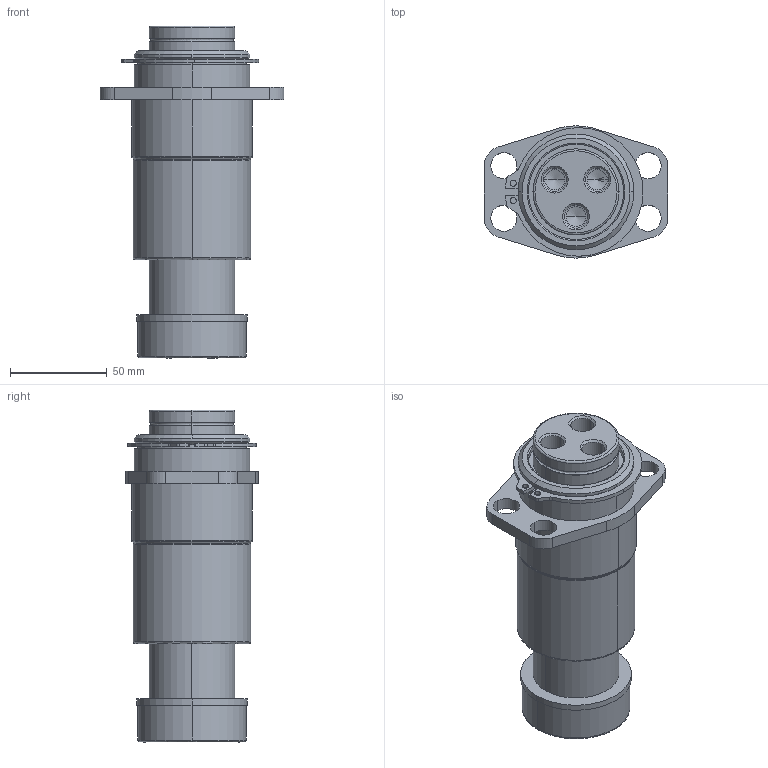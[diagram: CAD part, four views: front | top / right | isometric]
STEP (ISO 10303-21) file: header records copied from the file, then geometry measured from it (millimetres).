
FILE_DESCRIPTION (( 'STEP AP214' ), '1' );
FILE_NAME ('GK180-N4-1-TB-M-XXX.STEP', '2020-09-22T11:56:07', ( '' ), ( '' ), 'SwSTEP 2.0', 'SolidWorks 2017', '' );
FILE_SCHEMA (( 'AUTOMOTIVE_DESIGN' ));
Length unit declared in the file: inch
Products named in the file (7): RetainingRing; GK1.75-N4-1-TB-Base; GK180-M-XXX-GuidePin; GK180-N4-1-TB-M-XXX; GK180-DampeningWasher
Assembly tree (6 placements, depth 3):
  GK180-N4-1-TB-M-XXX
    GK1.75-N4-1-TB-Base
      GK1.75-N4-1-TB-Base
      RetainingRing
    GK180-M-XXX-GuidePin
      GK180-M-XXX-GuidePin
      GK180-DampeningWasher
Bounding box: 94.79 x 68.33 x 171.45 mm (x, y, z)
Volume: 432311.2 mm3; surface area: 82806.4 mm2
Topology: 4 solids, 4 shells, 135 faces, 315 edges, 191 vertices
Faces by surface type: cylinder 65, plane 26, cone 24, bspline 20
Entity records: 4747 total; most frequent: CARTESIAN_POINT 1196, DIRECTION 725, ORIENTED_EDGE 618, EDGE_CURVE 309, AXIS2_PLACEMENT_3D 300, VERTEX_POINT 191, CIRCLE 174, EDGE_LOOP 160
